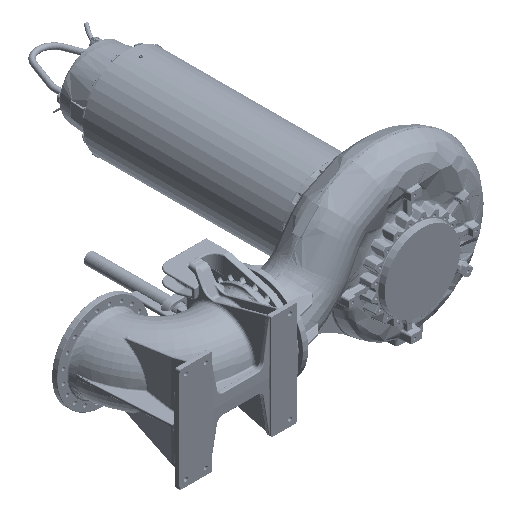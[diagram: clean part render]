
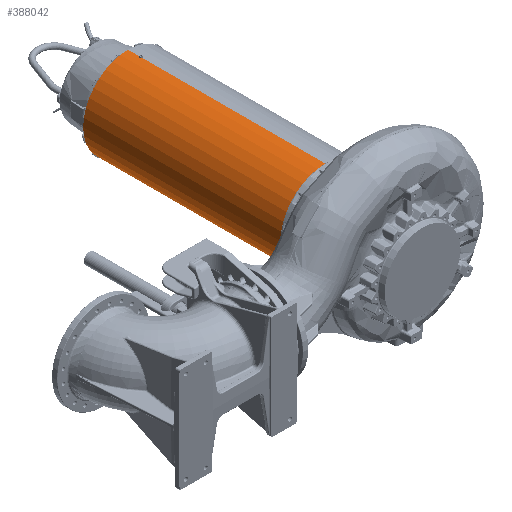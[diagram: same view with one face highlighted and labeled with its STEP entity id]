
A CAD part, isometric view. The second image highlights one B-rep face of the part: STEP entity #388042.
In plain terms, the highlighted cylindrical face has radius 344 mm (diameter 688 mm), a partial arc.
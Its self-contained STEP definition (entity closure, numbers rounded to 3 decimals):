
#2448 = VERTEX_POINT ( 'NONE', #169584 ) ;
#2974 = CYLINDRICAL_SURFACE ( 'NONE', #184531, 344. ) ;
#3429 = CARTESIAN_POINT ( 'NONE',  ( 0., 745.5, -344. ) ) ;
#7326 = VECTOR ( 'NONE', #149321, 1000. ) ;
#15516 = ORIENTED_EDGE ( 'NONE', *, *, #310887, .T. ) ;
#16487 = CARTESIAN_POINT ( 'NONE',  ( 0., 765.5, 0. ) ) ;
#28598 = VERTEX_POINT ( 'NONE', #3429 ) ;
#29767 = CARTESIAN_POINT ( 'NONE',  ( -6.334, 2153.187, -343.956 ) ) ;
#41097 = ORIENTED_EDGE ( 'NONE', *, *, #386793, .T. ) ;
#41935 = VERTEX_POINT ( 'NONE', #346855 ) ;
#46358 = ORIENTED_EDGE ( 'NONE', *, *, #135912, .T. ) ;
#49589 = CARTESIAN_POINT ( 'NONE',  ( 0., 2260.5, 0. ) ) ;
#53140 = CARTESIAN_POINT ( 'NONE',  ( 0., 2171.47, 344. ) ) ;
#56463 = CARTESIAN_POINT ( 'NONE',  ( 0., 2171.47, 344. ) ) ;
#61890 = VERTEX_POINT ( 'NONE', #302397 ) ;
#62065 = CARTESIAN_POINT ( 'NONE',  ( 0., 745.5, 344. ) ) ;
#62264 = CARTESIAN_POINT ( 'NONE',  ( 0., 765.5, -344. ) ) ;
#64666 = CIRCLE ( 'NONE', #73738, 344. ) ;
#72029 = ORIENTED_EDGE ( 'NONE', *, *, #149146, .F. ) ;
#72608 = CARTESIAN_POINT ( 'NONE',  ( 0., 2149.53, 344. ) ) ;
#73398 =( BOUNDED_CURVE ( )  B_SPLINE_CURVE ( 3, ( #389449, #359271, #29767, #239771 ),
 .UNSPECIFIED., .F., .F. ) 
 B_SPLINE_CURVE_WITH_KNOTS ( ( 4, 4 ),
 ( 4.712, 4.74 ),
 .UNSPECIFIED. ) 
 CURVE ( )  GEOMETRIC_REPRESENTATION_ITEM ( )  RATIONAL_B_SPLINE_CURVE ( ( 1., 1., 1., 1. ) ) 
 REPRESENTATION_ITEM ( '' )  );
#73738 = AXIS2_PLACEMENT_3D ( 'NONE', #49589, #259576, #79862 ) ;
#75715 = VECTOR ( 'NONE', #272248, 1000. ) ;
#79862 = DIRECTION ( 'NONE',  ( 0., 0., -1. ) ) ;
#80715 = CARTESIAN_POINT ( 'NONE',  ( 0., 745.5, 0. ) ) ;
#91887 = LINE ( 'NONE', #165788, #242130 ) ;
#96083 = CARTESIAN_POINT ( 'NONE',  ( -9.5, 2400.849, -343.869 ) ) ;
#102833 = CARTESIAN_POINT ( 'NONE',  ( -9.5, 2155.015, 343.869 ) ) ;
#107306 = VERTEX_POINT ( 'NONE', #340664 ) ;
#108003 = EDGE_CURVE ( 'NONE', #180346, #61890, #379077, .T. ) ;
#110827 = DIRECTION ( 'NONE',  ( 0., 0., -1. ) ) ;
#111096 = FACE_OUTER_BOUND ( 'NONE', #315553, .T. ) ;
#111164 = CARTESIAN_POINT ( 'NONE',  ( -9.5, 2155.015, -343.869 ) ) ;
#116318 = EDGE_CURVE ( 'NONE', #129499, #28598, #252763, .T. ) ;
#116447 = VECTOR ( 'NONE', #342390, 1000. ) ;
#124257 =( BOUNDED_CURVE ( )  B_SPLINE_CURVE ( 3, ( #202707, #352472, #232906, #53140 ),
 .UNSPECIFIED., .F., .F. ) 
 B_SPLINE_CURVE_WITH_KNOTS ( ( 4, 4 ),
 ( 4.685, 4.712 ),
 .UNSPECIFIED. ) 
 CURVE ( )  GEOMETRIC_REPRESENTATION_ITEM ( )  RATIONAL_B_SPLINE_CURVE ( ( 1., 1., 1., 1. ) ) 
 REPRESENTATION_ITEM ( '' )  );
#125833 = CARTESIAN_POINT ( 'NONE',  ( -9.5, 2165.985, -343.869 ) ) ;
#126240 = DIRECTION ( 'NONE',  ( 0., 1., 0. ) ) ;
#129499 = VERTEX_POINT ( 'NONE', #62065 ) ;
#132328 = CARTESIAN_POINT ( 'NONE',  ( 0., 765.5, 344. ) ) ;
#135761 = AXIS2_PLACEMENT_3D ( 'NONE', #80715, #290656, #110827 ) ;
#135912 = EDGE_CURVE ( 'NONE', #307620, #337213, #347887, .T. ) ;
#149146 = EDGE_CURVE ( 'NONE', #61890, #288179, #229005, .T. ) ;
#149321 = DIRECTION ( 'NONE',  ( 0., -1., 0. ) ) ;
#165160 = ORIENTED_EDGE ( 'NONE', *, *, #298506, .T. ) ;
#165788 = CARTESIAN_POINT ( 'NONE',  ( -9.5, 2400.849, 343.869 ) ) ;
#167367 = DIRECTION ( 'NONE',  ( 0., 0., -1. ) ) ;
#169584 = CARTESIAN_POINT ( 'NONE',  ( 0., 2260.5, 344. ) ) ;
#180346 = VERTEX_POINT ( 'NONE', #111164 ) ;
#184531 = AXIS2_PLACEMENT_3D ( 'NONE', #16487, #226425, #167367 ) ;
#186192 = CARTESIAN_POINT ( 'NONE',  ( 0., 2171.47, -344. ) ) ;
#191985 = CARTESIAN_POINT ( 'NONE',  ( -6.334, 2153.187, 343.956 ) ) ;
#202707 = CARTESIAN_POINT ( 'NONE',  ( -9.5, 2165.985, 343.869 ) ) ;
#226425 = DIRECTION ( 'NONE',  ( 0., -1., 0. ) ) ;
#229005 =( BOUNDED_CURVE ( )  B_SPLINE_CURVE ( 3, ( #125833, #305659, #366047, #186192 ),
 .UNSPECIFIED., .F., .F. ) 
 B_SPLINE_CURVE_WITH_KNOTS ( ( 4, 4 ),
 ( 4.685, 4.712 ),
 .UNSPECIFIED. ) 
 CURVE ( )  GEOMETRIC_REPRESENTATION_ITEM ( )  RATIONAL_B_SPLINE_CURVE ( ( 1., 1., 1., 1. ) ) 
 REPRESENTATION_ITEM ( '' )  );
#232906 = CARTESIAN_POINT ( 'NONE',  ( -3.167, 2169.641, 344. ) ) ;
#233461 = CARTESIAN_POINT ( 'NONE',  ( 0., 2149.53, 344. ) ) ;
#237496 = LINE ( 'NONE', #329221, #7326 ) ;
#239771 = CARTESIAN_POINT ( 'NONE',  ( -9.5, 2155.015, -343.869 ) ) ;
#242130 = VECTOR ( 'NONE', #287938, 1000. ) ;
#246665 = EDGE_CURVE ( 'NONE', #2448, #107306, #64666, .T. ) ;
#251113 = CARTESIAN_POINT ( 'NONE',  ( -3.167, 2151.359, 344. ) ) ;
#252763 = CIRCLE ( 'NONE', #135761, 344. ) ;
#259576 = DIRECTION ( 'NONE',  ( 0., -1., 0. ) ) ;
#262170 = ORIENTED_EDGE ( 'NONE', *, *, #301953, .F. ) ;
#267342 = VECTOR ( 'NONE', #337649, 1000. ) ;
#272248 = DIRECTION ( 'NONE',  ( 0., -1., 0. ) ) ;
#280965 = ORIENTED_EDGE ( 'NONE', *, *, #116318, .F. ) ;
#282597 = CARTESIAN_POINT ( 'NONE',  ( -9.5, 2155.015, 343.869 ) ) ;
#287938 = DIRECTION ( 'NONE',  ( 0., 1., 0. ) ) ;
#288179 = VERTEX_POINT ( 'NONE', #330600 ) ;
#289848 = VECTOR ( 'NONE', #126240, 1000. ) ;
#290656 = DIRECTION ( 'NONE',  ( 0., -1., 0. ) ) ;
#298506 = EDGE_CURVE ( 'NONE', #379233, #28598, #356707, .T. ) ;
#298773 = VERTEX_POINT ( 'NONE', #56463 ) ;
#299093 = ORIENTED_EDGE ( 'NONE', *, *, #353141, .T. ) ;
#301953 = EDGE_CURVE ( 'NONE', #2448, #298773, #237496, .T. ) ;
#302268 = ORIENTED_EDGE ( 'NONE', *, *, #322350, .F. ) ;
#302397 = CARTESIAN_POINT ( 'NONE',  ( -9.5, 2165.985, -343.869 ) ) ;
#305659 = CARTESIAN_POINT ( 'NONE',  ( -6.334, 2167.813, -343.956 ) ) ;
#305838 = LINE ( 'NONE', #62264, #75715 ) ;
#307620 = VERTEX_POINT ( 'NONE', #233461 ) ;
#309721 = ORIENTED_EDGE ( 'NONE', *, *, #108003, .F. ) ;
#310887 = EDGE_CURVE ( 'NONE', #337213, #41935, #91887, .T. ) ;
#315553 = EDGE_LOOP ( 'NONE', ( #262170, #332582, #299093, #72029, #309721, #302268, #165160, #280965, #360502, #46358, #15516, #41097 ) ) ;
#322350 = EDGE_CURVE ( 'NONE', #379233, #180346, #73398, .T. ) ;
#329221 = CARTESIAN_POINT ( 'NONE',  ( 0., 765.5, 344. ) ) ;
#330600 = CARTESIAN_POINT ( 'NONE',  ( 0., 2171.47, -344. ) ) ;
#332582 = ORIENTED_EDGE ( 'NONE', *, *, #246665, .T. ) ;
#337213 = VERTEX_POINT ( 'NONE', #102833 ) ;
#337649 = DIRECTION ( 'NONE',  ( 0., -1., 0. ) ) ;
#338571 = CARTESIAN_POINT ( 'NONE',  ( 0., 2149.53, -344. ) ) ;
#338924 = CARTESIAN_POINT ( 'NONE',  ( 0., 765.5, -344. ) ) ;
#340664 = CARTESIAN_POINT ( 'NONE',  ( 0., 2260.5, -344. ) ) ;
#342390 = DIRECTION ( 'NONE',  ( 0., -1., 0. ) ) ;
#346577 = LINE ( 'NONE', #132328, #116447 ) ;
#346855 = CARTESIAN_POINT ( 'NONE',  ( -9.5, 2165.985, 343.869 ) ) ;
#347887 =( BOUNDED_CURVE ( )  B_SPLINE_CURVE ( 3, ( #72608, #251113, #191985, #282597 ),
 .UNSPECIFIED., .F., .F. ) 
 B_SPLINE_CURVE_WITH_KNOTS ( ( 4, 4 ),
 ( 4.712, 4.74 ),
 .UNSPECIFIED. ) 
 CURVE ( )  GEOMETRIC_REPRESENTATION_ITEM ( )  RATIONAL_B_SPLINE_CURVE ( ( 1., 1., 1., 1. ) ) 
 REPRESENTATION_ITEM ( '' )  );
#352472 = CARTESIAN_POINT ( 'NONE',  ( -6.334, 2167.813, 343.956 ) ) ;
#353141 = EDGE_CURVE ( 'NONE', #107306, #288179, #305838, .T. ) ;
#356707 = LINE ( 'NONE', #338924, #267342 ) ;
#359271 = CARTESIAN_POINT ( 'NONE',  ( -3.167, 2151.359, -344. ) ) ;
#360502 = ORIENTED_EDGE ( 'NONE', *, *, #380658, .F. ) ;
#366047 = CARTESIAN_POINT ( 'NONE',  ( -3.167, 2169.641, -344. ) ) ;
#379077 = LINE ( 'NONE', #96083, #289848 ) ;
#379233 = VERTEX_POINT ( 'NONE', #338571 ) ;
#380658 = EDGE_CURVE ( 'NONE', #307620, #129499, #346577, .T. ) ;
#386793 = EDGE_CURVE ( 'NONE', #41935, #298773, #124257, .T. ) ;
#388042 = ADVANCED_FACE ( 'NONE', ( #111096 ), #2974, .T. ) ;
#389449 = CARTESIAN_POINT ( 'NONE',  ( 0., 2149.53, -344. ) ) ;
